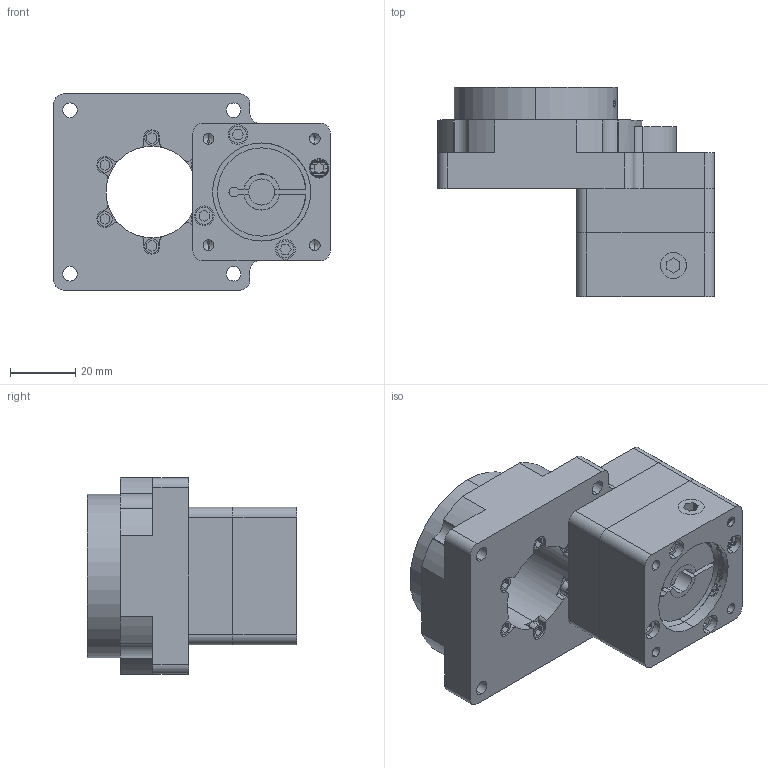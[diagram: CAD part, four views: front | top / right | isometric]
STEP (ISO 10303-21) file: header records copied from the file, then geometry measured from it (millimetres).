
FILE_DESCRIPTION (( 'STEP AP203' ), '1' );
FILE_NAME ('NT60-05-M2耀倰(饜侜督8-30-46-M4).STEP', '2025-04-28T02:51:43', ( 'Windows User' ), ( 'P R C' ), 'SwSTEP 2.0', 'SolidWorks 2016', '' );
FILE_SCHEMA (( 'CONFIG_CONTROL_DESIGN' ));
Products named in the file (1): NT60-05-M2耀倰(饜侜督8-30-46-M4)
Bounding box: 84.6 x 64 x 60 mm (x, y, z)
Volume: 128493.9 mm3; surface area: 42788.4 mm2
Topology: 30 solids, 36 shells, 1744 faces, 4760 edges, 3146 vertices
Faces by surface type: plane 1117, bspline 365, cylinder 226, cone 36
Entity records: 68488 total; most frequent: CARTESIAN_POINT 26325, ORIENTED_EDGE 9448, DIRECTION 7377, EDGE_CURVE 4724, LINE 3163, VECTOR 3163, VERTEX_POINT 3146, AXIS2_PLACEMENT_3D 2107
